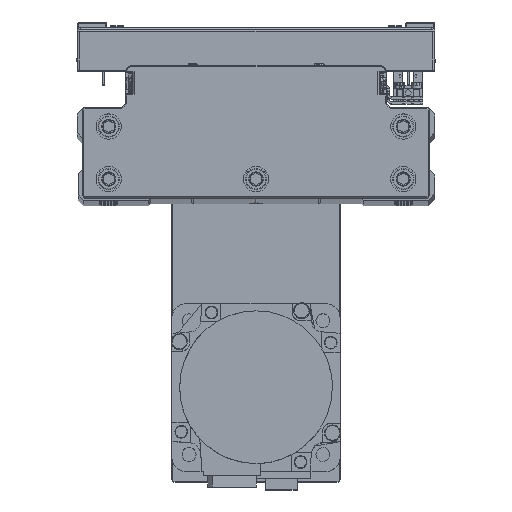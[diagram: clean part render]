
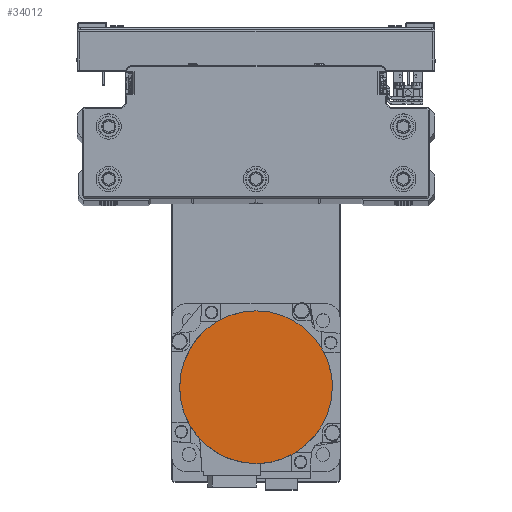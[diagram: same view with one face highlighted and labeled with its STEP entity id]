
A CAD part, top view. The second image highlights one B-rep face of the part: STEP entity #34012.
In plain terms, the highlighted planar face has unit normal (0, 0, 1) as drawn and (0, 0, -1) by its records, which use the part's own axes.
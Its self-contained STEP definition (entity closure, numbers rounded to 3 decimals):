
#783 = CARTESIAN_POINT ( 'NONE',  ( -27.348, -23.988, -122.2 ) ) ;
#1862 = CARTESIAN_POINT ( 'NONE',  ( 0., 36.3, -122.2 ) ) ;
#3402 = CARTESIAN_POINT ( 'NONE',  ( -23.988, 27.348, -122.2 ) ) ;
#4253 = CARTESIAN_POINT ( 'NONE',  ( -32.628, -16.086, -122.2 ) ) ;
#4484 = DIRECTION ( 'NONE',  ( 0., 0., 1. ) ) ;
#5002 = AXIS2_PLACEMENT_3D ( 'NONE', #36181, #4484, #18623 ) ;
#5471 = ORIENTED_EDGE ( 'NONE', *, *, #37380, .F. ) ;
#5860 = CARTESIAN_POINT ( 'NONE',  ( 0., 0., -122.2 ) ) ;
#6880 = CARTESIAN_POINT ( 'NONE',  ( -16.086, 32.628, -122.2 ) ) ;
#7720 = CARTESIAN_POINT ( 'NONE',  ( -36.066, -4.752, -122.2 ) ) ;
#7955 = FACE_OUTER_BOUND ( 'NONE', #31851, .T. ) ;
#7956 = CARTESIAN_POINT ( 'NONE',  ( -4.752, -36.066, -122.2 ) ) ;
#9422 = CARTESIAN_POINT ( 'NONE',  ( 0., 0., -122.2 ) ) ;
#10367 = CARTESIAN_POINT ( 'NONE',  ( -4.752, 36.066, -122.2 ) ) ;
#10590 = CARTESIAN_POINT ( 'NONE',  ( -36.066, 4.752, -122.2 ) ) ;
#10697 = CARTESIAN_POINT ( 'NONE',  ( 36.3, 0., -122.2 ) ) ;
#11442 = CARTESIAN_POINT ( 'NONE',  ( -16.086, -32.628, -122.2 ) ) ;
#12938 = ORIENTED_EDGE ( 'NONE', *, *, #20537, .F. ) ;
#13891 = B_SPLINE_CURVE_WITH_KNOTS ( 'NONE', 3,
 ( #25316, #39417, #7720, #21844, #35937, #4253, #18393, #32482, #783, #14911, #29027, #43119, #11442, #25537, #39639, #7956, #22094, #36182 ),
 .UNSPECIFIED., .F., .F.,
 ( 4, 2, 2, 2, 2, 2, 2, 2, 4 ),
 ( 0., 0.125, 0.25, 0.375, 0.5, 0.625, 0.75, 0.875, 1. ),
 .UNSPECIFIED. ) ;
#14073 = CARTESIAN_POINT ( 'NONE',  ( -32.628, 16.086, -122.2 ) ) ;
#14911 = CARTESIAN_POINT ( 'NONE',  ( -23.988, -27.348, -122.2 ) ) ;
#17342 = EDGE_CURVE ( 'NONE', #25706, #30011, #38419, .T. ) ;
#17541 = CARTESIAN_POINT ( 'NONE',  ( -27.348, 23.988, -122.2 ) ) ;
#17853 = CIRCLE ( 'NONE', #43704, 36.3 ) ;
#18393 = CARTESIAN_POINT ( 'NONE',  ( -31.502, -18.192, -122.2 ) ) ;
#18623 = DIRECTION ( 'NONE',  ( 1., 0., 0. ) ) ;
#19385 = VERTEX_POINT ( 'NONE', #22541 ) ;
#20000 = DIRECTION ( 'NONE',  ( 0., 0., 1. ) ) ;
#20537 = EDGE_CURVE ( 'NONE', #30011, #19385, #13891, .T. ) ;
#21023 = CARTESIAN_POINT ( 'NONE',  ( -18.192, 31.502, -122.2 ) ) ;
#21844 = CARTESIAN_POINT ( 'NONE',  ( -35.139, -9.412, -122.2 ) ) ;
#22093 = PLANE ( 'NONE',  #5002 ) ;
#22094 = CARTESIAN_POINT ( 'NONE',  ( -2.376, -36.3, -122.2 ) ) ;
#22541 = CARTESIAN_POINT ( 'NONE',  ( 0., -36.3, -122.2 ) ) ;
#23553 = DIRECTION ( 'NONE',  ( 0., 0., 1. ) ) ;
#24483 = CARTESIAN_POINT ( 'NONE',  ( -9.412, 35.139, -122.2 ) ) ;
#24707 = CARTESIAN_POINT ( 'NONE',  ( -36.3, 2.376, -122.2 ) ) ;
#25316 = CARTESIAN_POINT ( 'NONE',  ( -36.3, 0., -122.2 ) ) ;
#25537 = CARTESIAN_POINT ( 'NONE',  ( -11.696, -34.446, -122.2 ) ) ;
#25706 = VERTEX_POINT ( 'NONE', #1862 ) ;
#27114 = VERTEX_POINT ( 'NONE', #10697 ) ;
#27966 = CARTESIAN_POINT ( 'NONE',  ( 0., 36.3, -122.2 ) ) ;
#28154 = EDGE_CURVE ( 'NONE', #19385, #27114, #17853, .T. ) ;
#28187 = CARTESIAN_POINT ( 'NONE',  ( -34.446, 11.696, -122.2 ) ) ;
#29027 = CARTESIAN_POINT ( 'NONE',  ( -22.143, -28.862, -122.2 ) ) ;
#30011 = VERTEX_POINT ( 'NONE', #37413 ) ;
#30845 = CIRCLE ( 'NONE', #36738, 36.3 ) ;
#31648 = CARTESIAN_POINT ( 'NONE',  ( -28.862, 22.143, -122.2 ) ) ;
#31851 = EDGE_LOOP ( 'NONE', ( #39657, #12938, #38991, #5471 ) ) ;
#32482 = CARTESIAN_POINT ( 'NONE',  ( -28.862, -22.143, -122.2 ) ) ;
#34012 = ADVANCED_FACE ( 'NONE', ( #7955 ), #22093, .F. ) ;
#34095 = DIRECTION ( 'NONE',  ( -1., 0., 0. ) ) ;
#35103 = CARTESIAN_POINT ( 'NONE',  ( -22.143, 28.862, -122.2 ) ) ;
#35937 = CARTESIAN_POINT ( 'NONE',  ( -34.446, -11.696, -122.2 ) ) ;
#36181 = CARTESIAN_POINT ( 'NONE',  ( 0., 0., -122.2 ) ) ;
#36182 = CARTESIAN_POINT ( 'NONE',  ( 0., -36.3, -122.2 ) ) ;
#36738 = AXIS2_PLACEMENT_3D ( 'NONE', #9422, #23553, #37646 ) ;
#37380 = EDGE_CURVE ( 'NONE', #27114, #25706, #30845, .T. ) ;
#37413 = CARTESIAN_POINT ( 'NONE',  ( -36.3, 0., -122.2 ) ) ;
#37646 = DIRECTION ( 'NONE',  ( -1., 0., 0. ) ) ;
#38419 = B_SPLINE_CURVE_WITH_KNOTS ( 'NONE', 3,
 ( #27966, #42056, #10367, #24483, #38583, #6880, #21023, #35103, #3402, #17541, #31648, #45744, #14073, #28187, #42278, #10590, #24707, #38802 ),
 .UNSPECIFIED., .F., .F.,
 ( 4, 2, 2, 2, 2, 2, 2, 2, 4 ),
 ( 0., 0.125, 0.25, 0.375, 0.5, 0.625, 0.75, 0.875, 1. ),
 .UNSPECIFIED. ) ;
#38583 = CARTESIAN_POINT ( 'NONE',  ( -11.696, 34.446, -122.2 ) ) ;
#38802 = CARTESIAN_POINT ( 'NONE',  ( -36.3, 0., -122.2 ) ) ;
#38991 = ORIENTED_EDGE ( 'NONE', *, *, #17342, .F. ) ;
#39417 = CARTESIAN_POINT ( 'NONE',  ( -36.3, -2.376, -122.2 ) ) ;
#39639 = CARTESIAN_POINT ( 'NONE',  ( -9.412, -35.139, -122.2 ) ) ;
#39657 = ORIENTED_EDGE ( 'NONE', *, *, #28154, .F. ) ;
#42056 = CARTESIAN_POINT ( 'NONE',  ( -2.376, 36.3, -122.2 ) ) ;
#42278 = CARTESIAN_POINT ( 'NONE',  ( -35.139, 9.412, -122.2 ) ) ;
#43119 = CARTESIAN_POINT ( 'NONE',  ( -18.192, -31.502, -122.2 ) ) ;
#43704 = AXIS2_PLACEMENT_3D ( 'NONE', #5860, #20000, #34095 ) ;
#45744 = CARTESIAN_POINT ( 'NONE',  ( -31.502, 18.192, -122.2 ) ) ;
